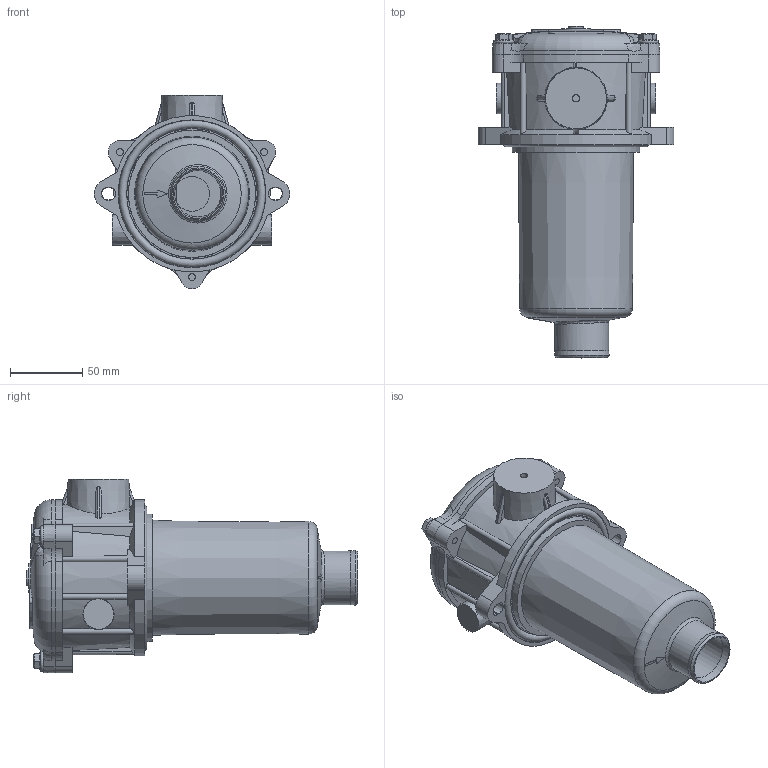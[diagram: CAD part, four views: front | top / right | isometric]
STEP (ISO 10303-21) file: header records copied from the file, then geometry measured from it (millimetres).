
FILE_DESCRIPTION((''),'2;1');
FILE_NAME('V:\Disegni-3D-Cliente\Filtri\Filtri sul Ritorno\MPF\MPF100-110\MPF_100_2_x_G3_xxx_x_x_P01_rev00.stp','2014-10-09T15:15:46',('cad10'),(''),'Autodesk Inventor 2013','Autodesk Inventor 2013','');
FILE_SCHEMA(('CONFIG_CONTROL_DESIGN'));
Length unit declared in the file: millimetre
Products named in the file (1): MPF_100_2_x_G3-6-9_xxx_x_x_P01_rev00
Bounding box: 135 x 229 x 133.5 mm (x, y, z)
Volume: 1267147 mm3; surface area: 99167.1 mm2
Topology: 1 solids, 1 shells, 261 faces, 708 edges, 466 vertices
Faces by surface type: plane 124, cone 60, cylinder 44, bspline 22, torus 10, sphere 1
Full cylindrical faces by diameter (mm): 5 x1, 9.5 x1, 24 x1, 32 x1, 37 x1
Entity records: 9869 total; most frequent: CARTESIAN_POINT 3705, ORIENTED_EDGE 1338, DIRECTION 1042, EDGE_CURVE 669, VERTEX_POINT 459, AXIS2_PLACEMENT_3D 420, EDGE_LOOP 315, STYLED_ITEM 262
